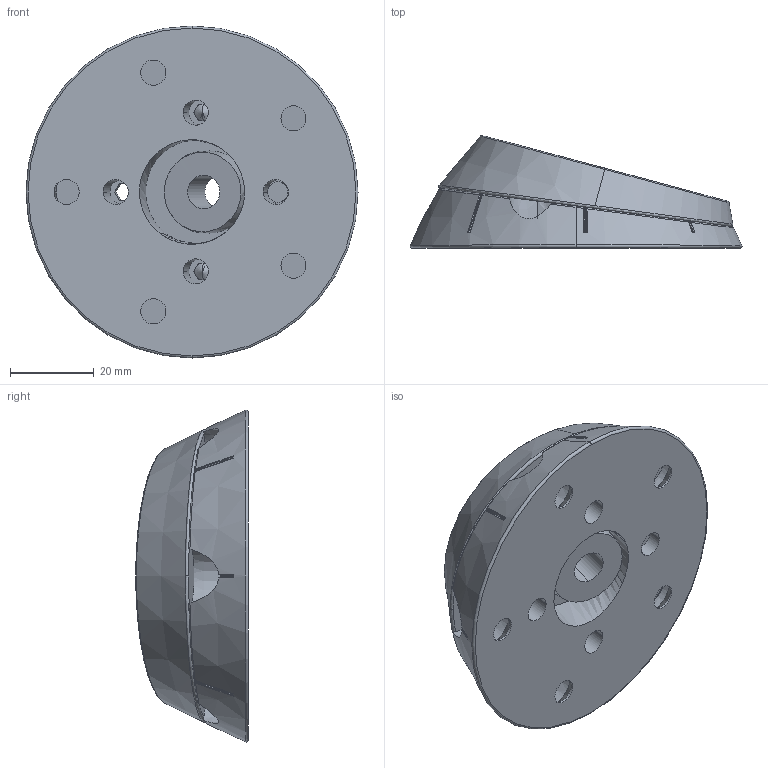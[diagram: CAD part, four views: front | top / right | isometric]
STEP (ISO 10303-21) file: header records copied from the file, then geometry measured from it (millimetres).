
FILE_DESCRIPTION (( 'STEP AP203' ), '1' );
FILE_NAME ('06.11.130-0 Twistn Turn 15dg_Ext. faces.STEP', '2021-03-08T11:01:15', ( '' ), ( '' ), 'SwSTEP 2.0', 'SolidWorks 2020', '' );
FILE_SCHEMA (( 'CONFIG_CONTROL_DESIGN' ));
Length unit declared in the file: millimetre
Products named in the file (1): 06.11.130-0 Twistn Turn 15dg_Ext. faces
Bounding box: 79.43 x 26.96 x 79.43 mm (x, y, z)
Surface area: 24194.5 mm2 (no closed solid volume)
Topology: 0 solids, 7 shells, 281 faces, 787 edges, 501 vertices
Faces by surface type: bspline 90, cone 71, plane 59, cylinder 56, torus 5
Entity records: 12517 total; most frequent: CARTESIAN_POINT 6092, ORIENTED_EDGE 1466, DIRECTION 1126, EDGE_CURVE 781, VERTEX_POINT 501, AXIS2_PLACEMENT_3D 446, EDGE_LOOP 324, FACE_OUTER_BOUND 281
